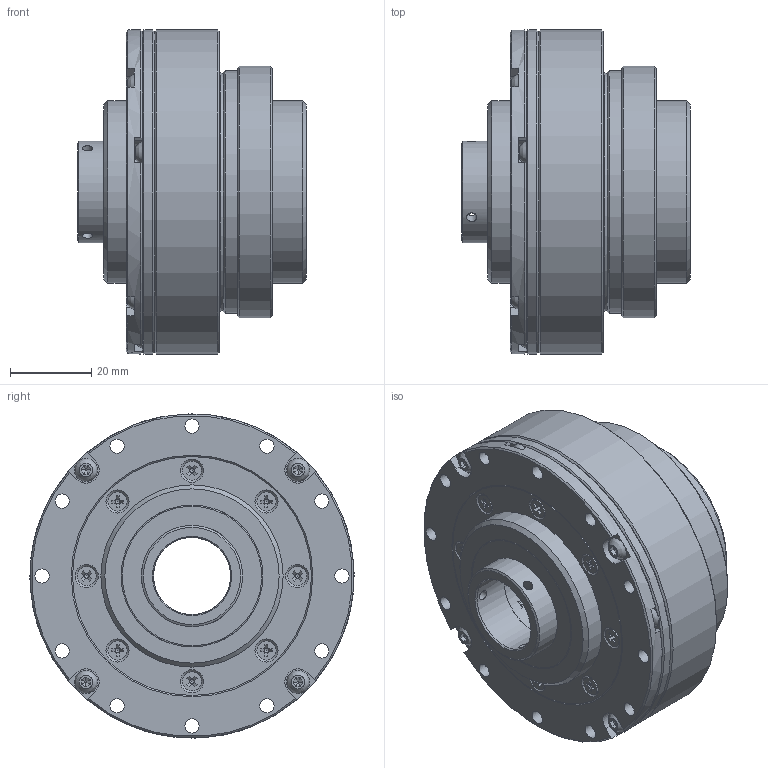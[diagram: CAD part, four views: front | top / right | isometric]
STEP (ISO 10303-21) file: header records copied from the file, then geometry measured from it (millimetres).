
FILE_DESCRIPTION (( 'STEP AP203' ), '1' );
FILE_NAME ('LHS-17-XXX-CL-III.STEP', '2025-01-07T06:02:03', ( '' ), ( '' ), 'SwSTEP 2.0', 'SolidWorks 2023', '' );
FILE_SCHEMA (( 'CONFIG_CONTROL_DESIGN' ));
Length unit declared in the file: metre
Products named in the file (1): LHS-17-XXX-CL-III
Bounding box: 56.5 x 80 x 80 mm (x, y, z)
Volume: 124018.1 mm3; surface area: 112372.7 mm2
Topology: 62 solids, 62 shells, 1315 faces, 3451 edges, 2173 vertices
Faces by surface type: plane 541, cylinder 322, bspline 268, cone 184
Full cylindrical faces by diameter (mm): 2 x1, 2.05 x8, 2.5 x39, 3 x20, 3.5 x72, 3.7 x16, 3.8 x1, 4.7 x8, 5.5 x4, 6 x4, 19 x2, 19.5 x1, 23.9 x1, 24 x1, 24.5 x2, 25 x7, 27 x1, 28 x1, 29 x6, 29.4 x1, 30 x2, 30.295 x1, 32.5 x1, 32.53 x2, 32.6 x2, 33 x4, 33.23 x1, 34 x1, 34.8 x1, 35 x4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
Entity records: 47426 total; most frequent: CARTESIAN_POINT 19294, ORIENTED_EDGE 5492, DIRECTION 5384, EDGE_CURVE 2746, AXIS2_PLACEMENT_3D 2308, EDGE_LOOP 2114, VERTEX_POINT 1980, FACE_OUTER_BOUND 1673
